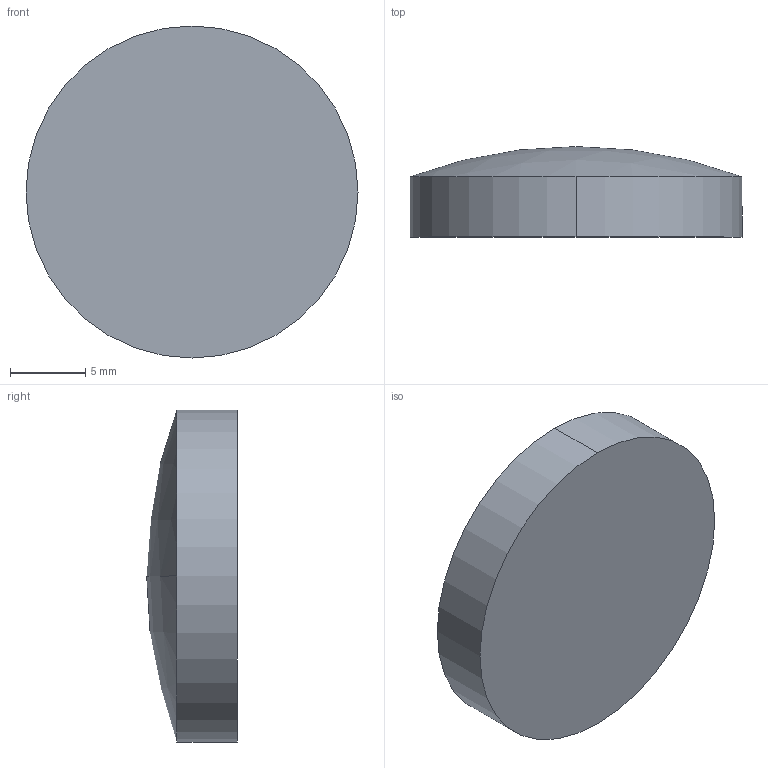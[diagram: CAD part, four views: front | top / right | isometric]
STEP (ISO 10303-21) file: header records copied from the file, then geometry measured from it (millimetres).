
FILE_DESCRIPTION (( 'STEP AP214' ), '1' );
FILE_NAME ('Onyx.STEP', '2013-11-25T15:42:18', ( '' ), ( '' ), 'SwSTEP 2.0', 'SolidWorks 2012', '' );
FILE_SCHEMA (( 'AUTOMOTIVE_DESIGN' ));
Length unit declared in the file: millimetre
Products named in the file (1): Onyx
Bounding box: 22 x 6 x 22 mm (x, y, z)
Volume: 1904.9 mm3; surface area: 1049.3 mm2
Topology: 1 solids, 1 shells, 5 faces, 10 edges, 7 vertices
Faces by surface type: cylinder 2, sphere 2, plane 1
Entity records: 174 total; most frequent: DIRECTION 30, CARTESIAN_POINT 23, ORIENTED_EDGE 20, AXIS2_PLACEMENT_3D 14, EDGE_CURVE 10, CIRCLE 8, VERTEX_POINT 7, EDGE_LOOP 5
